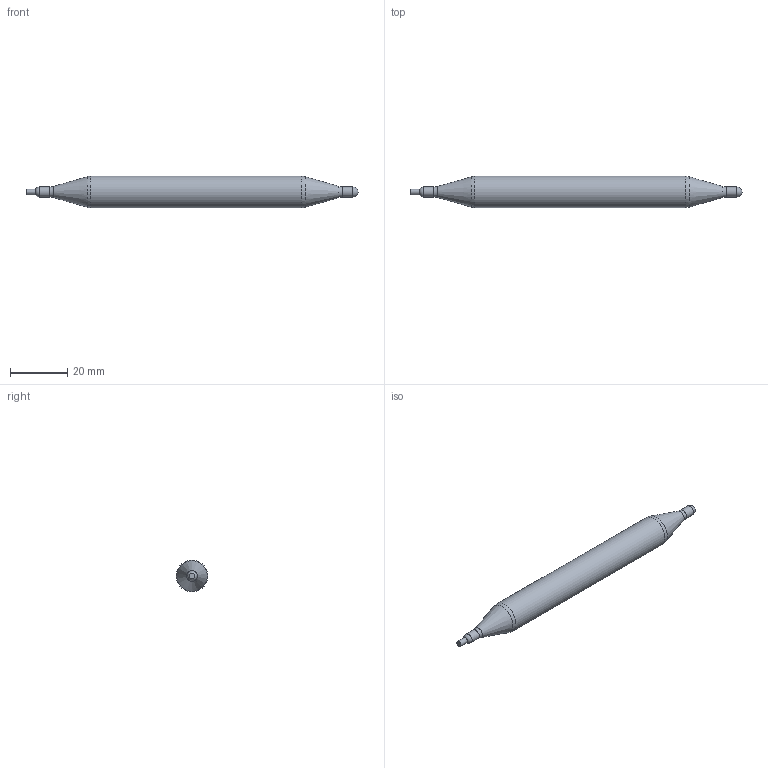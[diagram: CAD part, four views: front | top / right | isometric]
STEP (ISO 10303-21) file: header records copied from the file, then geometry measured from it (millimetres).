
FILE_DESCRIPTION(('TFLEX Exchange Step'),'2;1');
FILE_NAME('Remote liquid sensor DN11 VT.3011.0.0 Valtec.stp', '2023-09-12T17:26:23+03:00',('denis'),('Unknown organisation'),'TFLEX Exchange 2023.0','T-FLEX CAD','Unknown authorisation');
FILE_SCHEMA( ('AUTOMOTIVE_DESIGN { 1 0 10303 214 1 1 1 1 }') );
Length unit declared in the file: millimetre
Products named in the file (1): Nodes
Bounding box: 116 x 11 x 11 mm (x, y, z)
Volume: 8409.6 mm3; surface area: 3387.2 mm2
Topology: 2 solids, 2 shells, 16 faces, 36 edges, 23 vertices
Faces by surface type: cylinder 5, torus 4, plane 3, sphere 2, cone 2
Full cylindrical faces by diameter (mm): 2 x2, 3.5 x2, 11 x1
Entity records: 489 total; most frequent: DIRECTION 97, CARTESIAN_POINT 75, ORIENTED_EDGE 70, AXIS2_PLACEMENT_3D 45, EDGE_CURVE 35, CIRCLE 28, VERTEX_POINT 23, EDGE_LOOP 16
